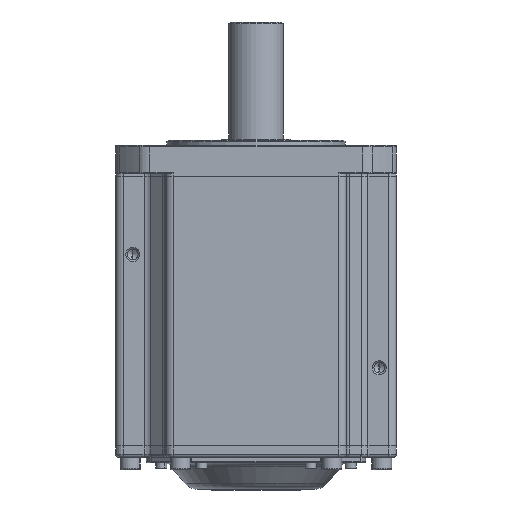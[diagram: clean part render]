
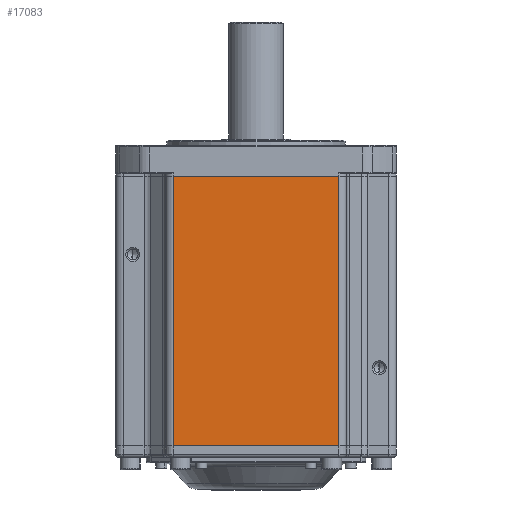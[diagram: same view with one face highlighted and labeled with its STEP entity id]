
A CAD part, front view. The second image highlights one B-rep face of the part: STEP entity #17083.
In plain terms, the highlighted planar face has unit normal (0, -1, 0).
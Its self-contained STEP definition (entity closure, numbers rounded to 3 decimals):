
#1101 = DIRECTION ( 'NONE',  ( 0., 1., 0. ) ) ;
#3544 = ORIENTED_EDGE ( 'NONE', *, *, #61803, .T. ) ;
#7066 = EDGE_CURVE ( 'NONE', #48108, #10766, #47076, .T. ) ;
#9761 = AXIS2_PLACEMENT_3D ( 'NONE', #14618, #1101, #25581 ) ;
#10010 = CARTESIAN_POINT ( 'NONE',  ( -52.974, -89.007, -896.673 ) ) ;
#10766 = VERTEX_POINT ( 'NONE', #18318 ) ;
#12289 = LINE ( 'NONE', #10010, #45334 ) ;
#12777 = VECTOR ( 'NONE', #28548, 1000. ) ;
#14618 = CARTESIAN_POINT ( 'NONE',  ( 58.026, -89.007, -896.673 ) ) ;
#14687 = FACE_OUTER_BOUND ( 'NONE', #22686, .T. ) ;
#15692 = CARTESIAN_POINT ( 'NONE',  ( 53.026, -89.007, 103.327 ) ) ;
#17083 = ADVANCED_FACE ( 'NONE', ( #14687 ), #44078, .F. ) ;
#17988 = CARTESIAN_POINT ( 'NONE',  ( -154.318, -89.007, -69.273 ) ) ;
#18318 = CARTESIAN_POINT ( 'NONE',  ( -52.974, -89.007, 103.327 ) ) ;
#22686 = EDGE_LOOP ( 'NONE', ( #3544, #60302, #25146, #48334 ) ) ;
#22753 = CARTESIAN_POINT ( 'NONE',  ( 53.026, -89.007, -896.673 ) ) ;
#23941 = VECTOR ( 'NONE', #57428, 1000. ) ;
#25146 = ORIENTED_EDGE ( 'NONE', *, *, #41821, .T. ) ;
#25581 = DIRECTION ( 'NONE',  ( 0., 0., -1. ) ) ;
#25599 = VERTEX_POINT ( 'NONE', #29612 ) ;
#28548 = DIRECTION ( 'NONE',  ( 1., 0., 0. ) ) ;
#29612 = CARTESIAN_POINT ( 'NONE',  ( 53.026, -89.007, -69.273 ) ) ;
#30483 = CARTESIAN_POINT ( 'NONE',  ( -52.974, -89.007, -69.273 ) ) ;
#30772 = DIRECTION ( 'NONE',  ( -1., 0., 0. ) ) ;
#40173 = VERTEX_POINT ( 'NONE', #30483 ) ;
#41821 = EDGE_CURVE ( 'NONE', #25599, #48108, #47009, .T. ) ;
#43902 = CARTESIAN_POINT ( 'NONE',  ( 58.026, -89.007, 103.327 ) ) ;
#44078 = PLANE ( 'NONE',  #9761 ) ;
#45334 = VECTOR ( 'NONE', #63415, 1000. ) ;
#47009 = LINE ( 'NONE', #22753, #23941 ) ;
#47076 = LINE ( 'NONE', #43902, #60207 ) ;
#48108 = VERTEX_POINT ( 'NONE', #15692 ) ;
#48334 = ORIENTED_EDGE ( 'NONE', *, *, #7066, .T. ) ;
#57428 = DIRECTION ( 'NONE',  ( 0., 0., 1. ) ) ;
#60207 = VECTOR ( 'NONE', #30772, 1000. ) ;
#60302 = ORIENTED_EDGE ( 'NONE', *, *, #63380, .T. ) ;
#61803 = EDGE_CURVE ( 'NONE', #10766, #40173, #12289, .T. ) ;
#62878 = LINE ( 'NONE', #17988, #12777 ) ;
#63380 = EDGE_CURVE ( 'NONE', #40173, #25599, #62878, .T. ) ;
#63415 = DIRECTION ( 'NONE',  ( 0., 0., -1. ) ) ;
